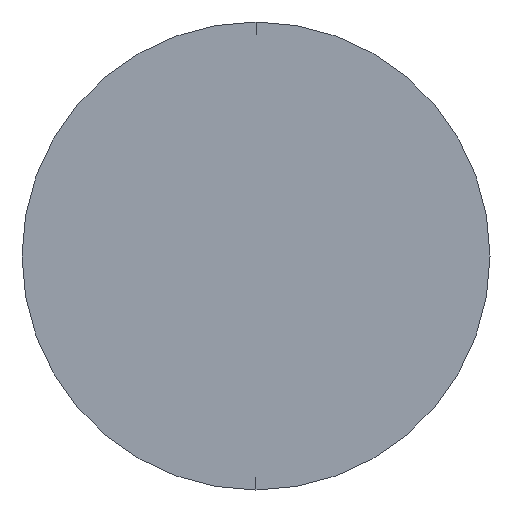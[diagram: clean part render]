
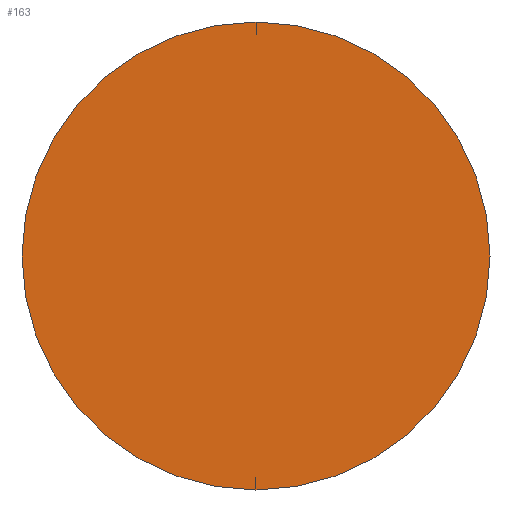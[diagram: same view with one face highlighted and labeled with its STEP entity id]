
A CAD part, left-side view. The second image highlights one B-rep face of the part: STEP entity #163.
In plain terms, the highlighted planar face has unit normal (-1, 0, 0).
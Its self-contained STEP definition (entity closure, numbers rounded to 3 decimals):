
#2 = EDGE_LOOP ( 'NONE', ( #58, #9 ) ) ;
#9 = ORIENTED_EDGE ( 'NONE', *, *, #224, .T. ) ;
#35 = DIRECTION ( 'NONE',  ( 1., 0., 0. ) ) ;
#40 = DIRECTION ( 'NONE',  ( 0., 0., -1. ) ) ;
#47 = DIRECTION ( 'NONE',  ( 0., 0., 1. ) ) ;
#58 = ORIENTED_EDGE ( 'NONE', *, *, #60, .T. ) ;
#60 = EDGE_CURVE ( 'NONE', #174, #172, #81, .T. ) ;
#66 = DIRECTION ( 'NONE',  ( -1., 0., 0. ) ) ;
#81 = CIRCLE ( 'NONE', #83, 3.25 ) ;
#83 = AXIS2_PLACEMENT_3D ( 'NONE', #216, #285, #168 ) ;
#85 = CARTESIAN_POINT ( 'NONE',  ( 0., 0., 0. ) ) ;
#137 = PLANE ( 'NONE',  #284 ) ;
#163 = ADVANCED_FACE ( 'NONE', ( #260 ), #137, .F. ) ;
#168 = DIRECTION ( 'NONE',  ( 0., 0., 1. ) ) ;
#172 = VERTEX_POINT ( 'NONE', #197 ) ;
#174 = VERTEX_POINT ( 'NONE', #253 ) ;
#190 = CIRCLE ( 'NONE', #198, 3.25 ) ;
#197 = CARTESIAN_POINT ( 'NONE',  ( 0., 0., -3.25 ) ) ;
#198 = AXIS2_PLACEMENT_3D ( 'NONE', #273, #66, #47 ) ;
#216 = CARTESIAN_POINT ( 'NONE',  ( 0., 0., 0. ) ) ;
#224 = EDGE_CURVE ( 'NONE', #172, #174, #190, .T. ) ;
#253 = CARTESIAN_POINT ( 'NONE',  ( 0., 0., 3.25 ) ) ;
#260 = FACE_OUTER_BOUND ( 'NONE', #2, .T. ) ;
#273 = CARTESIAN_POINT ( 'NONE',  ( 0., 0., 0. ) ) ;
#284 = AXIS2_PLACEMENT_3D ( 'NONE', #85, #35, #40 ) ;
#285 = DIRECTION ( 'NONE',  ( -1., 0., 0. ) ) ;
